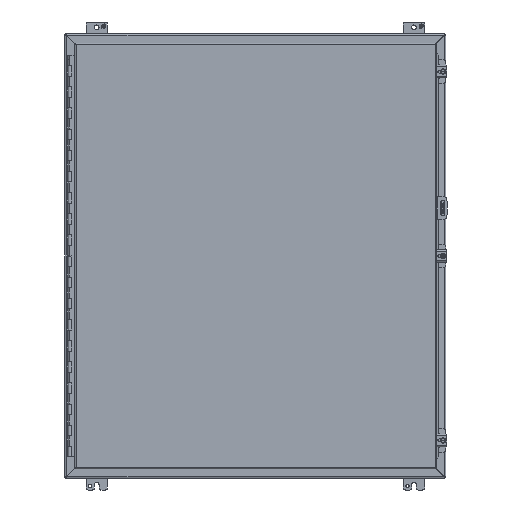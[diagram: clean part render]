
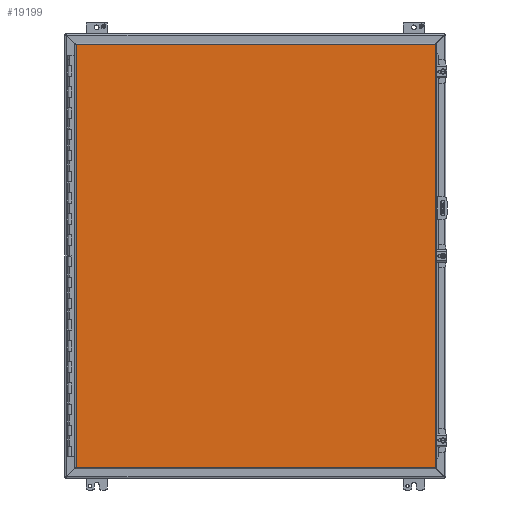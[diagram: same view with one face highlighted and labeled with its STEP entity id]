
A CAD part, front view. The second image highlights one B-rep face of the part: STEP entity #19199.
In plain terms, the highlighted planar face has unit normal (0, -1, 0).
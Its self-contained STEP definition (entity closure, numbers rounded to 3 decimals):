
#1212=LINE('',#27880,#3040);
#1213=LINE('',#27883,#3041);
#1214=LINE('',#27885,#3042);
#1215=LINE('',#27887,#3043);
#3040=VECTOR('',#22654,1000.);
#3041=VECTOR('',#22655,1000.);
#3042=VECTOR('',#22656,1000.);
#3043=VECTOR('',#22657,1000.);
#5920=ORIENTED_EDGE('',*,*,#11147,.T.);
#5921=ORIENTED_EDGE('',*,*,#11148,.T.);
#5922=ORIENTED_EDGE('',*,*,#11149,.T.);
#5923=ORIENTED_EDGE('',*,*,#11150,.T.);
#11147=EDGE_CURVE('',#13826,#13827,#1212,.T.);
#11148=EDGE_CURVE('',#13827,#13828,#1213,.T.);
#11149=EDGE_CURVE('',#13828,#13829,#1214,.T.);
#11150=EDGE_CURVE('',#13829,#13826,#1215,.T.);
#13826=VERTEX_POINT('',#27881);
#13827=VERTEX_POINT('',#27882);
#13828=VERTEX_POINT('',#27884);
#13829=VERTEX_POINT('',#27886);
#16129=EDGE_LOOP('',(#5920,#5921,#5922,#5923));
#17329=FACE_BOUND('',#16129,.T.);
#18448=PLANE('',#20510);
#19199=ADVANCED_FACE('',(#17329),#18448,.T.);
#20510=AXIS2_PLACEMENT_3D('',#27879,#22652,#22653);
#22652=DIRECTION('',(0.,-1.,0.));
#22653=DIRECTION('',(0.,0.,-1.));
#22654=DIRECTION('',(0.,0.,-1.));
#22655=DIRECTION('',(1.,0.,0.));
#22656=DIRECTION('',(0.,0.,1.));
#22657=DIRECTION('',(-1.,0.,0.));
#27879=CARTESIAN_POINT('',(-431.444,0.,-507.86));
#27880=CARTESIAN_POINT('',(-431.444,0.,507.86));
#27881=CARTESIAN_POINT('',(-431.444,0.,507.86));
#27882=CARTESIAN_POINT('',(-431.444,0.,-507.86));
#27883=CARTESIAN_POINT('',(-431.444,0.,-507.86));
#27884=CARTESIAN_POINT('',(431.444,0.,-507.86));
#27885=CARTESIAN_POINT('',(431.444,0.,-507.86));
#27886=CARTESIAN_POINT('',(431.444,0.,507.86));
#27887=CARTESIAN_POINT('',(431.444,0.,507.86));
